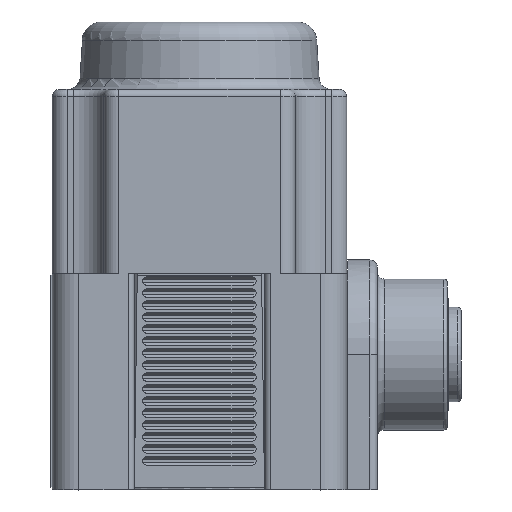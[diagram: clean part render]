
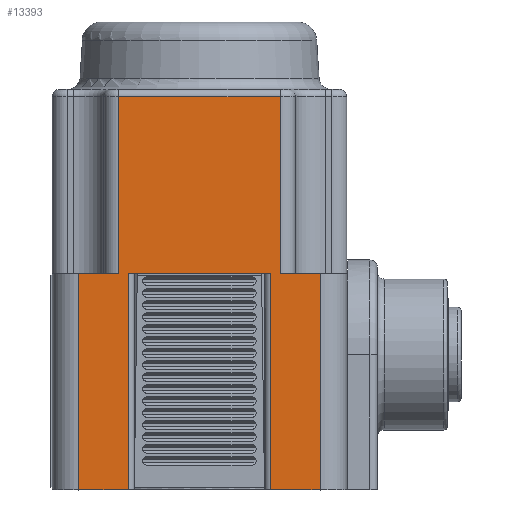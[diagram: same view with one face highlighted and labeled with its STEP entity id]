
A CAD part, left-side view. The second image highlights one B-rep face of the part: STEP entity #13393.
In plain terms, the highlighted planar face has unit normal (-1, 0, 0).
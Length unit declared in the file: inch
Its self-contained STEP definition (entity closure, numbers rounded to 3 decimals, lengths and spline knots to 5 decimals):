
#1530=LINE('',#22712,#2456);
#1543=LINE('',#22782,#2469);
#1666=LINE('',#24370,#2592);
#1684=LINE('',#24430,#2610);
#1685=LINE('',#24434,#2611);
#1688=LINE('',#24453,#2614);
#1701=LINE('',#24522,#2627);
#1702=LINE('',#24526,#2628);
#1703=LINE('',#24527,#2629);
#1704=LINE('',#24529,#2630);
#1705=LINE('',#24531,#2631);
#1706=LINE('',#24532,#2632);
#2456=VECTOR('',#17926,0.3937);
#2469=VECTOR('',#18009,0.3937);
#2592=VECTOR('',#18330,0.3937);
#2610=VECTOR('',#18402,0.3937);
#2611=VECTOR('',#18407,0.3937);
#2614=VECTOR('',#18428,0.3937);
#2627=VECTOR('',#18519,0.3937);
#2628=VECTOR('',#18524,0.3937);
#2629=VECTOR('',#18525,0.3937);
#2630=VECTOR('',#18526,0.3937);
#2631=VECTOR('',#18527,0.3937);
#2632=VECTOR('',#18528,0.3937);
#3424=FACE_OUTER_BOUND('',#4227,.T.);
#4227=EDGE_LOOP('',(#11457,#11458,#11459,#11460,#11461,#11462,#11463,#11464,
#11465,#11466,#11467,#11468));
#5774=VERTEX_POINT('',#22704);
#5776=VERTEX_POINT('',#22710);
#5798=VERTEX_POINT('',#22780);
#5934=VERTEX_POINT('',#24367);
#5935=VERTEX_POINT('',#24369);
#5950=VERTEX_POINT('',#24429);
#5951=VERTEX_POINT('',#24433);
#5958=VERTEX_POINT('',#24451);
#5975=VERTEX_POINT('',#24521);
#5976=VERTEX_POINT('',#24525);
#5977=VERTEX_POINT('',#24528);
#5978=VERTEX_POINT('',#24530);
#7504=EDGE_CURVE('',#5776,#5774,#1530,.T.);
#7540=EDGE_CURVE('',#5798,#5776,#1543,.T.);
#7749=EDGE_CURVE('',#5935,#5934,#1666,.T.);
#7779=EDGE_CURVE('',#5950,#5774,#1684,.T.);
#7781=EDGE_CURVE('',#5951,#5950,#1685,.T.);
#7791=EDGE_CURVE('',#5798,#5958,#1688,.T.);
#7825=EDGE_CURVE('',#5975,#5935,#1701,.T.);
#7827=EDGE_CURVE('',#5976,#5958,#1702,.T.);
#7828=EDGE_CURVE('',#5975,#5976,#1703,.T.);
#7829=EDGE_CURVE('',#5977,#5934,#1704,.T.);
#7830=EDGE_CURVE('',#5977,#5978,#1705,.T.);
#7831=EDGE_CURVE('',#5978,#5951,#1706,.T.);
#11457=ORIENTED_EDGE('',*,*,#7504,.F.);
#11458=ORIENTED_EDGE('',*,*,#7540,.F.);
#11459=ORIENTED_EDGE('',*,*,#7791,.T.);
#11460=ORIENTED_EDGE('',*,*,#7827,.F.);
#11461=ORIENTED_EDGE('',*,*,#7828,.F.);
#11462=ORIENTED_EDGE('',*,*,#7825,.T.);
#11463=ORIENTED_EDGE('',*,*,#7749,.T.);
#11464=ORIENTED_EDGE('',*,*,#7829,.F.);
#11465=ORIENTED_EDGE('',*,*,#7830,.T.);
#11466=ORIENTED_EDGE('',*,*,#7831,.T.);
#11467=ORIENTED_EDGE('',*,*,#7781,.T.);
#11468=ORIENTED_EDGE('',*,*,#7779,.T.);
#11971=PLANE('',#14811);
#13393=ADVANCED_FACE('',(#3424),#11971,.T.);
#14811=AXIS2_PLACEMENT_3D('',#24524,#18522,#18523);
#17926=DIRECTION('',(0.,-1.,0.));
#18009=DIRECTION('',(0.,0.,1.));
#18330=DIRECTION('',(0.,-1.,0.));
#18402=DIRECTION('',(0.,0.,1.));
#18407=DIRECTION('',(0.,1.,0.));
#18428=DIRECTION('',(0.,1.,0.));
#18519=DIRECTION('',(0.,0.,1.));
#18522=DIRECTION('center_axis',(-1.,0.,0.));
#18523=DIRECTION('ref_axis',(0.,0.,1.));
#18524=DIRECTION('',(0.,0.,1.));
#18525=DIRECTION('',(0.,1.,0.));
#18526=DIRECTION('',(0.,0.,1.));
#18527=DIRECTION('',(0.,-1.,0.));
#18528=DIRECTION('',(0.,0.,1.));
#22704=CARTESIAN_POINT('',(-1.25488,-0.43403,0.65855));
#22710=CARTESIAN_POINT('',(-1.25488,0.23397,0.65855));
#22712=CARTESIAN_POINT('',(-1.25488,0.23397,0.65855));
#22780=CARTESIAN_POINT('',(-1.25488,0.23397,-0.07345));
#22782=CARTESIAN_POINT('',(-1.25488,0.23397,-0.07345));
#24367=CARTESIAN_POINT('',(-1.25488,-0.39403,-0.07345));
#24369=CARTESIAN_POINT('',(-1.25488,0.19397,-0.07345));
#24370=CARTESIAN_POINT('',(-1.25488,0.19397,-0.07345));
#24429=CARTESIAN_POINT('',(-1.25488,-0.43403,-0.07345));
#24430=CARTESIAN_POINT('',(-1.25488,-0.43403,-0.07345));
#24433=CARTESIAN_POINT('',(-1.25488,-0.59903,-0.07345));
#24434=CARTESIAN_POINT('',(-1.25488,-0.59903,-0.07345));
#24451=CARTESIAN_POINT('',(-1.25488,0.39897,-0.07345));
#24453=CARTESIAN_POINT('',(-1.25488,0.23397,-0.07345));
#24521=CARTESIAN_POINT('',(-1.25488,0.19397,-0.96745));
#24522=CARTESIAN_POINT('',(-1.25488,0.19397,-0.96745));
#24524=CARTESIAN_POINT('Origin',(-1.25488,-0.59942,-0.15445));
#24525=CARTESIAN_POINT('',(-1.25488,0.39897,-0.96745));
#24526=CARTESIAN_POINT('',(-1.25488,0.39897,-0.96745));
#24527=CARTESIAN_POINT('',(-1.25488,0.19397,-0.96745));
#24528=CARTESIAN_POINT('',(-1.25488,-0.39403,-0.96745));
#24529=CARTESIAN_POINT('',(-1.25488,-0.39403,-0.96745));
#24530=CARTESIAN_POINT('',(-1.25488,-0.59903,-0.96745));
#24531=CARTESIAN_POINT('',(-1.25488,-0.39403,-0.96745));
#24532=CARTESIAN_POINT('',(-1.25488,-0.59903,-0.96745));
